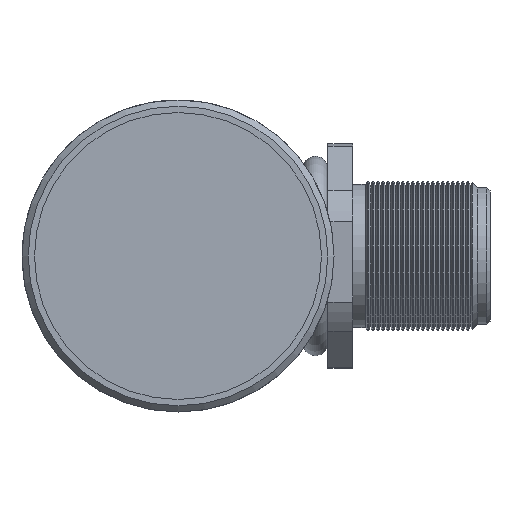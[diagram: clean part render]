
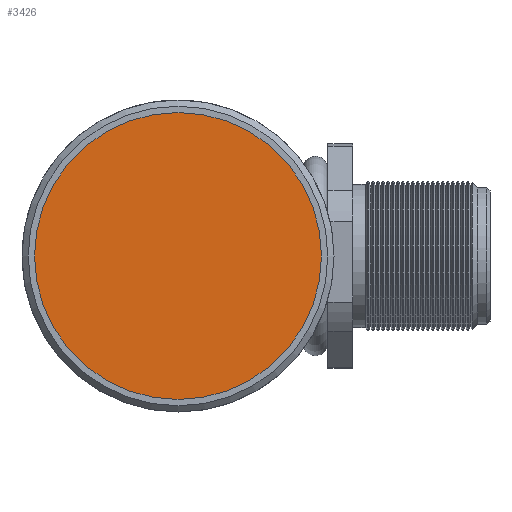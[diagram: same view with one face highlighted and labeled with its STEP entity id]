
A CAD part, left-side view. The second image highlights one B-rep face of the part: STEP entity #3426.
In plain terms, the highlighted planar face has unit normal (-1, 0, 0).
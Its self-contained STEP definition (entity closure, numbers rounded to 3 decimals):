
#430=PLANE('',#3696);
#831=VERTEX_POINT('',#4066);
#1141=CIRCLE('',#3695,11.5);
#1307=EDGE_CURVE('',#831,#831,#1141,.T.);
#1773=ORIENTED_EDGE('',*,*,#1307,.T.);
#2690=EDGE_LOOP('',(#1773));
#3062=FACE_BOUND('',#2690,.T.);
#3426=ADVANCED_FACE('',(#3062),#430,.F.);
#3695=AXIS2_PLACEMENT_3D('',#4065,#5685,#5686);
#3696=AXIS2_PLACEMENT_3D('',#4067,#5687,$);
#4065=CARTESIAN_POINT('',(-34.,0.,0.));
#4066=CARTESIAN_POINT('',(-34.,0.,-11.5));
#4067=CARTESIAN_POINT('',(-34.,0.,0.));
#5685=DIRECTION('',(-1.,0.,0.));
#5686=DIRECTION('',(0.,0.,-11.5));
#5687=DIRECTION('',(1.,0.,0.));
